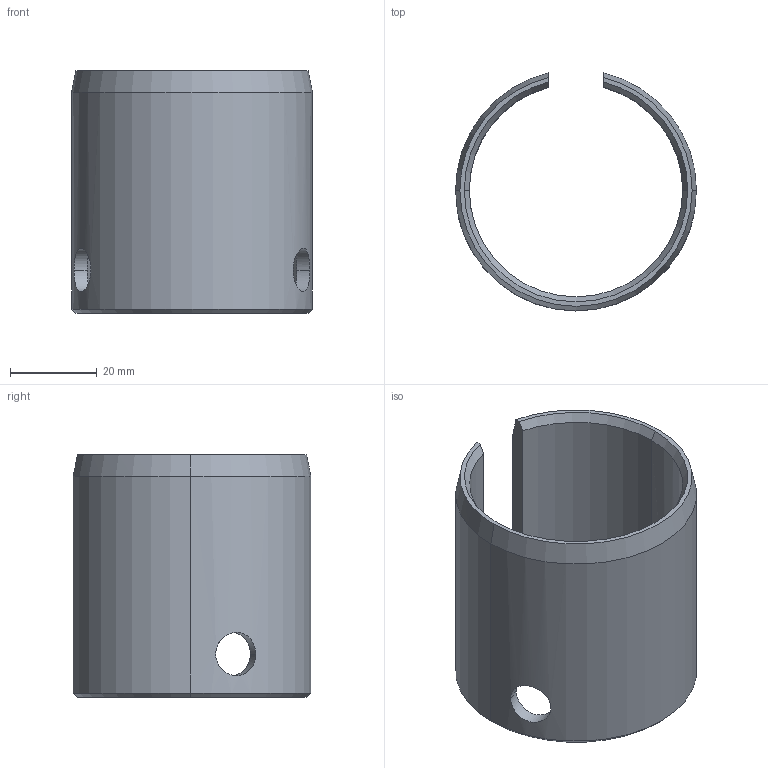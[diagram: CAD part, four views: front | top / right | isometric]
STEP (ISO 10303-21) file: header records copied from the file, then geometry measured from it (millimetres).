
FILE_DESCRIPTION (( 'STEP AP203' ), '1' );
FILE_NAME ('KBSH083P31.STEP', '2023-08-01T05:27:36', ( '' ), ( '' ), 'SwSTEP 2.0', 'SolidWorks 2017', '' );
FILE_SCHEMA (( 'CONFIG_CONTROL_DESIGN' ));
Length unit declared in the file: millimetre
Products named in the file (1): KBSH083P31
Bounding box: 55.56 x 54.83 x 56 mm (x, y, z)
Volume: 25668.6 mm3; surface area: 17715.1 mm2
Topology: 1 solids, 1 shells, 26 faces, 64 edges, 40 vertices
Faces by surface type: cone 12, cylinder 10, plane 4
Entity records: 1137 total; most frequent: CARTESIAN_POINT 447, ORIENTED_EDGE 128, DIRECTION 126, EDGE_CURVE 64, AXIS2_PLACEMENT_3D 51, VERTEX_POINT 40, EDGE_LOOP 30, FACE_OUTER_BOUND 26
